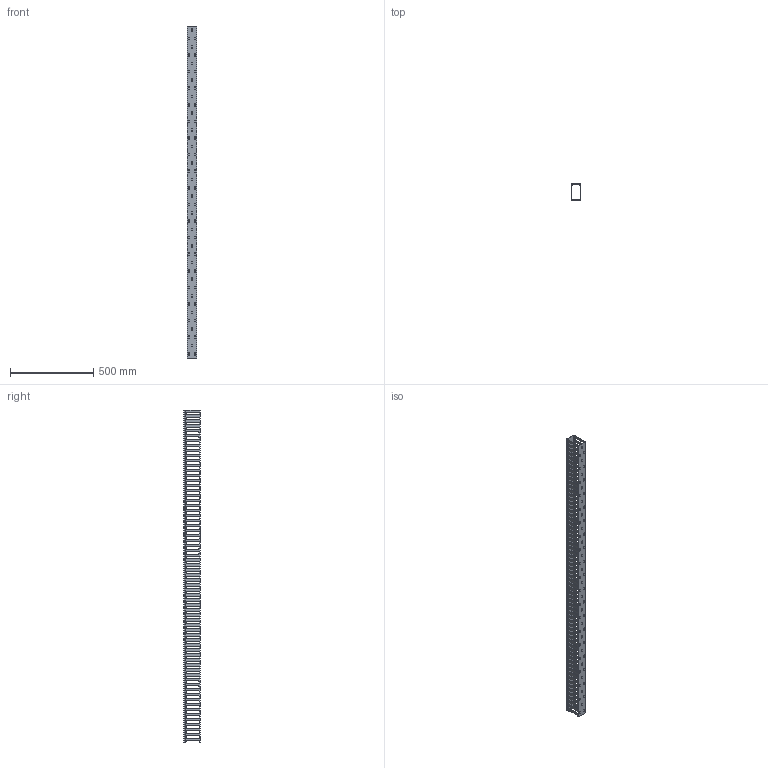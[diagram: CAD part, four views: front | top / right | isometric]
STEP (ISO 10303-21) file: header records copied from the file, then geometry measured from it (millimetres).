
FILE_DESCRIPTION (( 'STEP AP214' ), '1' );
FILE_NAME ('KD-610-20-T.STEP', '2020-02-19T01:46:52', ( '' ), ( '' ), 'SwSTEP 2.0', 'SolidWorks 2018', '' );
FILE_SCHEMA (( 'AUTOMOTIVE_DESIGN' ));
Length unit declared in the file: millimetre
Products named in the file (3): KD-610-20-T; KD-610-20-T-body; KD-64-20-cover
Assembly tree (2 placements, depth 2):
  KD-610-20-T
    KD-610-20-T-body
    KD-64-20-cover
Bounding box: 60 x 100.17 x 2000 mm (x, y, z)
Volume: 895521.4 mm3; surface area: 1138077.5 mm2
Topology: 2 solids, 2 shells, 2095 faces, 7065 edges, 4710 vertices
Faces by surface type: plane 1214, cylinder 881
Entity records: 78291 total; most frequent: ORIENTED_EDGE 14130, CARTESIAN_POINT 13875, DIRECTION 13559, EDGE_CURVE 7065, LINE 4771, VECTOR 4771, VERTEX_POINT 4710, AXIS2_PLACEMENT_3D 4394
